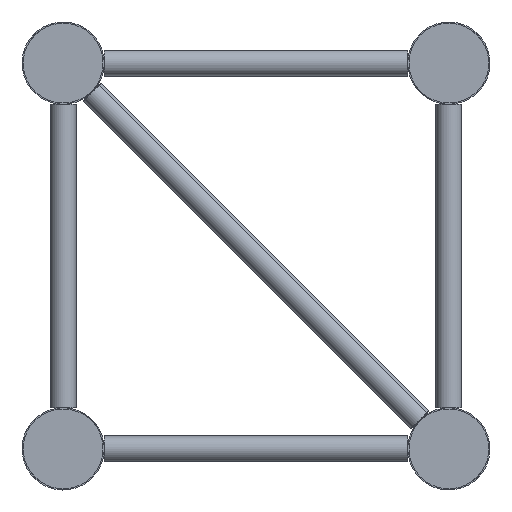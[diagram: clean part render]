
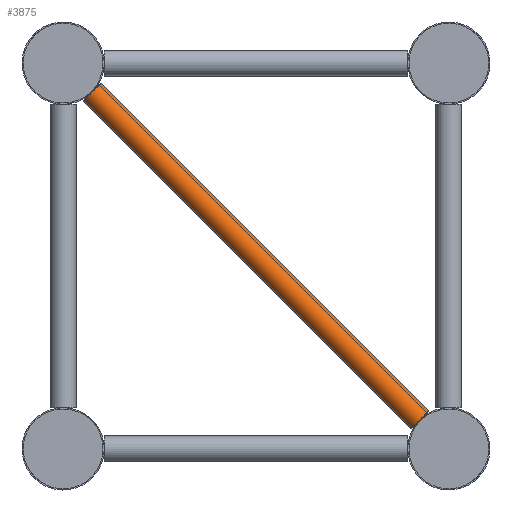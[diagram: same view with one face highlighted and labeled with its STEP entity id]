
A CAD part, left-side view. The second image highlights one B-rep face of the part: STEP entity #3875.
In plain terms, the highlighted cylindrical face has radius 8 mm (diameter 16 mm), a full revolution.
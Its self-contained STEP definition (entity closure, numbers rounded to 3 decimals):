
#191=B_SPLINE_CURVE_WITH_KNOTS('',3,(#6301,#6302,#6303,#6304,#6305,#6306),
 .UNSPECIFIED.,.F.,.F.,(4,2,4),(1.187,1.214,1.242),
 .UNSPECIFIED.);
#193=B_SPLINE_CURVE_WITH_KNOTS('',3,(#6319,#6320,#6321,#6322,#6323,#6324),
 .UNSPECIFIED.,.F.,.F.,(4,2,4),(3.616,3.643,3.67),
 .UNSPECIFIED.);
#200=B_SPLINE_CURVE_WITH_KNOTS('',3,(#6446,#6447,#6448,#6449,#6450,#6451),
 .UNSPECIFIED.,.F.,.F.,(4,2,4),(1.187,1.214,1.242),
 .UNSPECIFIED.);
#201=B_SPLINE_CURVE_WITH_KNOTS('',3,(#6455,#6456,#6457,#6458,#6459,#6460),
 .UNSPECIFIED.,.F.,.F.,(4,2,4),(3.616,3.643,3.67),
 .UNSPECIFIED.);
#462=CYLINDRICAL_SURFACE('',#4244,8.);
#622=FACE_BOUND('',#1195,.T.);
#802=FACE_OUTER_BOUND('',#1194,.T.);
#1194=EDGE_LOOP('',(#2618,#2619,#2620,#2621));
#1195=EDGE_LOOP('',(#2622,#2623,#2624,#2625));
#1564=CIRCLE('',#4243,8.);
#1565=CIRCLE('',#4245,8.);
#1566=CIRCLE('',#4246,8.);
#1567=CIRCLE('',#4247,8.);
#1784=VERTEX_POINT('',#6298);
#1785=VERTEX_POINT('',#6300);
#1788=VERTEX_POINT('',#6316);
#1789=VERTEX_POINT('',#6318);
#1802=VERTEX_POINT('',#6444);
#1803=VERTEX_POINT('',#6445);
#1804=VERTEX_POINT('',#6452);
#1805=VERTEX_POINT('',#6454);
#2048=EDGE_CURVE('',#1785,#1784,#191,.T.);
#2052=EDGE_CURVE('',#1789,#1788,#193,.T.);
#2070=EDGE_CURVE('',#1784,#1789,#1564,.T.);
#2071=EDGE_CURVE('',#1802,#1803,#200,.T.);
#2072=EDGE_CURVE('',#1803,#1804,#1565,.T.);
#2073=EDGE_CURVE('',#1804,#1805,#201,.T.);
#2074=EDGE_CURVE('',#1805,#1802,#1566,.T.);
#2075=EDGE_CURVE('',#1788,#1785,#1567,.T.);
#2618=ORIENTED_EDGE('',*,*,#2071,.T.);
#2619=ORIENTED_EDGE('',*,*,#2072,.T.);
#2620=ORIENTED_EDGE('',*,*,#2073,.T.);
#2621=ORIENTED_EDGE('',*,*,#2074,.T.);
#2622=ORIENTED_EDGE('',*,*,#2048,.T.);
#2623=ORIENTED_EDGE('',*,*,#2070,.T.);
#2624=ORIENTED_EDGE('',*,*,#2052,.T.);
#2625=ORIENTED_EDGE('',*,*,#2075,.T.);
#3875=ADVANCED_FACE('',(#802,#622),#462,.T.);
#4243=AXIS2_PLACEMENT_3D('',#6442,#4999,#5000);
#4244=AXIS2_PLACEMENT_3D('',#6443,#5001,#5002);
#4245=AXIS2_PLACEMENT_3D('',#6453,#5003,#5004);
#4246=AXIS2_PLACEMENT_3D('',#6461,#5005,#5006);
#4247=AXIS2_PLACEMENT_3D('',#6462,#5007,#5008);
#4999=DIRECTION('center_axis',(0.,-0.707,
-0.707));
#5000=DIRECTION('ref_axis',(0.,0.707,-0.707));
#5001=DIRECTION('center_axis',(0.,0.707,
0.707));
#5002=DIRECTION('ref_axis',(0.,0.707,-0.707));
#5003=DIRECTION('center_axis',(0.,0.707,
0.707));
#5004=DIRECTION('ref_axis',(0.,0.707,-0.707));
#5005=DIRECTION('center_axis',(0.,0.707,
0.707));
#5006=DIRECTION('ref_axis',(0.,0.707,-0.707));
#5007=DIRECTION('center_axis',(0.,-0.707,
-0.707));
#5008=DIRECTION('ref_axis',(0.,0.707,-0.707));
#6298=CARTESIAN_POINT('',(67.995,220.776,-17.836));
#6300=CARTESIAN_POINT('',(67.995,221.164,-18.224));
#6301=CARTESIAN_POINT('Ctrl Pts',(67.995,221.164,-18.224));
#6302=CARTESIAN_POINT('Ctrl Pts',(67.998,221.098,-18.16));
#6303=CARTESIAN_POINT('Ctrl Pts',(68.,221.033,-18.096));
#6304=CARTESIAN_POINT('Ctrl Pts',(68.,220.904,-17.967));
#6305=CARTESIAN_POINT('Ctrl Pts',(67.998,220.84,-17.902));
#6306=CARTESIAN_POINT('Ctrl Pts',(67.995,220.776,-17.836));
#6316=CARTESIAN_POINT('',(52.005,221.164,-18.224));
#6318=CARTESIAN_POINT('',(52.005,220.776,-17.836));
#6319=CARTESIAN_POINT('Ctrl Pts',(52.005,220.776,-17.836));
#6320=CARTESIAN_POINT('Ctrl Pts',(52.002,220.84,-17.902));
#6321=CARTESIAN_POINT('Ctrl Pts',(52.,220.904,-17.967));
#6322=CARTESIAN_POINT('Ctrl Pts',(52.,221.033,-18.096));
#6323=CARTESIAN_POINT('Ctrl Pts',(52.002,221.098,-18.16));
#6324=CARTESIAN_POINT('Ctrl Pts',(52.005,221.164,-18.224));
#6442=CARTESIAN_POINT('Origin',(60.,220.97,-18.03));
#6443=CARTESIAN_POINT('Origin',(60.,119.5,-119.5));
#6444=CARTESIAN_POINT('',(52.005,18.224,-221.164));
#6445=CARTESIAN_POINT('',(52.005,17.836,-220.776));
#6446=CARTESIAN_POINT('Ctrl Pts',(52.005,18.224,-221.164));
#6447=CARTESIAN_POINT('Ctrl Pts',(52.002,18.16,-221.098));
#6448=CARTESIAN_POINT('Ctrl Pts',(52.,18.096,-221.033));
#6449=CARTESIAN_POINT('Ctrl Pts',(52.,17.967,-220.904));
#6450=CARTESIAN_POINT('Ctrl Pts',(52.002,17.902,-220.84));
#6451=CARTESIAN_POINT('Ctrl Pts',(52.005,17.836,-220.776));
#6452=CARTESIAN_POINT('',(67.995,17.836,-220.776));
#6453=CARTESIAN_POINT('Origin',(60.,18.03,-220.97));
#6454=CARTESIAN_POINT('',(67.995,18.224,-221.164));
#6455=CARTESIAN_POINT('Ctrl Pts',(67.995,17.836,-220.776));
#6456=CARTESIAN_POINT('Ctrl Pts',(67.998,17.902,-220.84));
#6457=CARTESIAN_POINT('Ctrl Pts',(68.,17.967,-220.904));
#6458=CARTESIAN_POINT('Ctrl Pts',(68.,18.096,-221.033));
#6459=CARTESIAN_POINT('Ctrl Pts',(67.998,18.16,-221.098));
#6460=CARTESIAN_POINT('Ctrl Pts',(67.995,18.224,-221.164));
#6461=CARTESIAN_POINT('Origin',(60.,18.03,-220.97));
#6462=CARTESIAN_POINT('Origin',(60.,220.97,-18.03));
